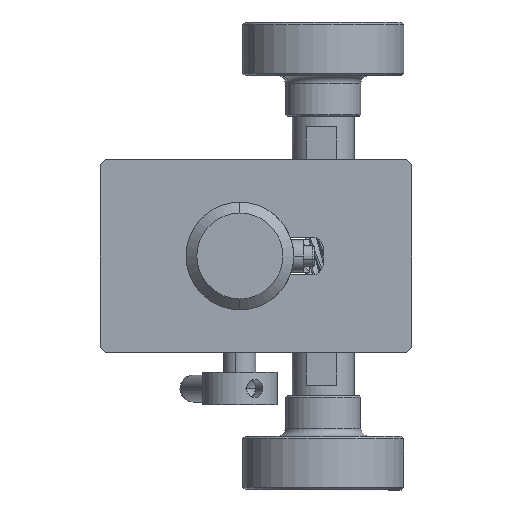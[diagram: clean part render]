
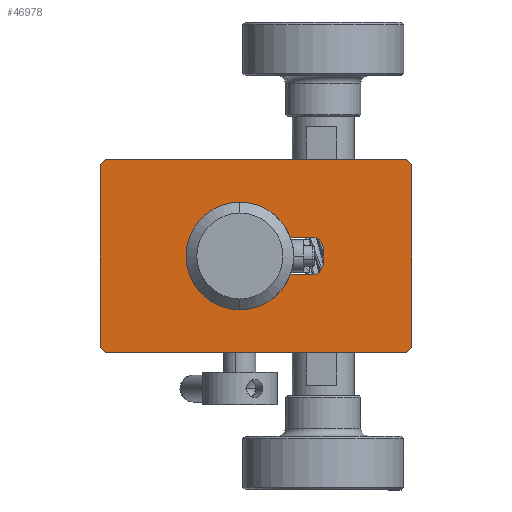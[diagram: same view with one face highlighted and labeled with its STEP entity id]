
A CAD part, front view. The second image highlights one B-rep face of the part: STEP entity #46978.
In plain terms, the highlighted planar face has unit normal (0, -1, 0).
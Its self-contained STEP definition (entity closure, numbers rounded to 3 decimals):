
#1125 = CARTESIAN_POINT ( 'NONE',  ( 37.874, -97.859, 91.708 ) ) ;
#1460 = CARTESIAN_POINT ( 'NONE',  ( 31.742, -97.859, 93.708 ) ) ;
#2434 = EDGE_CURVE ( 'NONE', #26344, #111513, #85136, .T. ) ;
#2582 = EDGE_CURVE ( 'NONE', #44937, #93007, #80805, .T. ) ;
#3878 = AXIS2_PLACEMENT_3D ( 'NONE', #51328, #110914, #9630 ) ;
#4989 = CARTESIAN_POINT ( 'NONE',  ( 53.374, -97.859, 72.208 ) ) ;
#5059 = ORIENTED_EDGE ( 'NONE', *, *, #27984, .T. ) ;
#5678 = VECTOR ( 'NONE', #26078, 1000. ) ;
#7068 = DIRECTION ( 'NONE',  ( -1., 0., 0. ) ) ;
#8962 = VERTEX_POINT ( 'NONE', #64062 ) ;
#9630 = DIRECTION ( 'NONE',  ( -1., 0., 0. ) ) ;
#10472 = DIRECTION ( 'NONE',  ( -1., 0., 0. ) ) ;
#11372 = VECTOR ( 'NONE', #53720, 1000. ) ;
#12379 = LINE ( 'NONE', #21645, #77221 ) ;
#12401 = CIRCLE ( 'NONE', #3878, 2. ) ;
#14998 = DIRECTION ( 'NONE',  ( -0.707, 0., 0.707 ) ) ;
#16202 = ORIENTED_EDGE ( 'NONE', *, *, #2582, .T. ) ;
#17969 = AXIS2_PLACEMENT_3D ( 'NONE', #107293, #27169, #76825 ) ;
#19047 = CARTESIAN_POINT ( 'NONE',  ( 54.374, -97.859, 72.208 ) ) ;
#19689 = DIRECTION ( 'NONE',  ( 0., 1., 0. ) ) ;
#21645 = CARTESIAN_POINT ( 'NONE',  ( 37.874, -97.859, 93.708 ) ) ;
#22366 = VECTOR ( 'NONE', #29344, 1000. ) ;
#23590 = DIRECTION ( 'NONE',  ( -1., 0., 0. ) ) ;
#24926 = ORIENTED_EDGE ( 'NONE', *, *, #2434, .F. ) ;
#24931 = CARTESIAN_POINT ( 'NONE',  ( -3.626, -97.859, 107.208 ) ) ;
#25679 = VERTEX_POINT ( 'NONE', #103116 ) ;
#26078 = DIRECTION ( 'NONE',  ( -0.707, 0., -0.707 ) ) ;
#26344 = VERTEX_POINT ( 'NONE', #45460 ) ;
#27169 = DIRECTION ( 'NONE',  ( 0., 1., 0. ) ) ;
#27279 = EDGE_LOOP ( 'NONE', ( #95663, #51603, #81378, #5059, #85949, #16202, #83579 ) ) ;
#27984 = EDGE_CURVE ( 'NONE', #41418, #112028, #12401, .T. ) ;
#28738 = VECTOR ( 'NONE', #120818, 1000. ) ;
#29344 = DIRECTION ( 'NONE',  ( 0., 0., -1. ) ) ;
#29516 = DIRECTION ( 'NONE',  ( 0., 1., 0. ) ) ;
#30618 = CIRCLE ( 'NONE', #17969, 10. ) ;
#30907 = CARTESIAN_POINT ( 'NONE',  ( -2.626, -97.859, 72.208 ) ) ;
#31893 = LINE ( 'NONE', #1460, #11372 ) ;
#32943 = ORIENTED_EDGE ( 'NONE', *, *, #119405, .T. ) ;
#35980 = ORIENTED_EDGE ( 'NONE', *, *, #62672, .F. ) ;
#37314 = LINE ( 'NONE', #86973, #5678 ) ;
#38056 = CARTESIAN_POINT ( 'NONE',  ( 12.374, -97.859, 90.208 ) ) ;
#38318 = EDGE_CURVE ( 'NONE', #26344, #47955, #44058, .T. ) ;
#39405 = LINE ( 'NONE', #68543, #28738 ) ;
#41418 = VERTEX_POINT ( 'NONE', #79804 ) ;
#43500 = ORIENTED_EDGE ( 'NONE', *, *, #76844, .F. ) ;
#44058 = LINE ( 'NONE', #4989, #67847 ) ;
#44937 = VERTEX_POINT ( 'NONE', #82714 ) ;
#45460 = CARTESIAN_POINT ( 'NONE',  ( 53.374, -97.859, 72.208 ) ) ;
#46978 = ADVANCED_FACE ( 'NONE', ( #55542, #116436 ), #98517, .F. ) ;
#47955 = VERTEX_POINT ( 'NONE', #90521 ) ;
#50567 = EDGE_CURVE ( 'NONE', #52501, #71266, #37314, .T. ) ;
#51328 = CARTESIAN_POINT ( 'NONE',  ( 35.874, -97.859, 91.708 ) ) ;
#51582 = ORIENTED_EDGE ( 'NONE', *, *, #50567, .T. ) ;
#51603 = ORIENTED_EDGE ( 'NONE', *, *, #108704, .T. ) ;
#52501 = VERTEX_POINT ( 'NONE', #69395 ) ;
#53720 = DIRECTION ( 'NONE',  ( 1., 0., 0. ) ) ;
#54451 = EDGE_CURVE ( 'NONE', #126458, #116730, #100904, .T. ) ;
#55103 = ORIENTED_EDGE ( 'NONE', *, *, #38318, .T. ) ;
#55542 = FACE_BOUND ( 'NONE', #27279, .T. ) ;
#58365 = VERTEX_POINT ( 'NONE', #82910 ) ;
#58722 = ORIENTED_EDGE ( 'NONE', *, *, #69258, .F. ) ;
#60437 = CARTESIAN_POINT ( 'NONE',  ( -3.626, -97.859, 72.208 ) ) ;
#62672 = EDGE_CURVE ( 'NONE', #52501, #58365, #69476, .T. ) ;
#62678 = CARTESIAN_POINT ( 'NONE',  ( 31.742, -97.859, 93.708 ) ) ;
#64062 = CARTESIAN_POINT ( 'NONE',  ( -3.626, -97.859, 73.208 ) ) ;
#67310 = EDGE_CURVE ( 'NONE', #93007, #126458, #129025, .T. ) ;
#67847 = VECTOR ( 'NONE', #115545, 1000. ) ;
#68543 = CARTESIAN_POINT ( 'NONE',  ( -3.626, -97.859, 73.208 ) ) ;
#69258 = EDGE_CURVE ( 'NONE', #8962, #71266, #70372, .T. ) ;
#69395 = CARTESIAN_POINT ( 'NONE',  ( -2.626, -97.859, 108.208 ) ) ;
#69476 = LINE ( 'NONE', #109874, #94779 ) ;
#70121 = DIRECTION ( 'NONE',  ( 1., 0., 0. ) ) ;
#70372 = LINE ( 'NONE', #60437, #125762 ) ;
#71266 = VERTEX_POINT ( 'NONE', #24931 ) ;
#74562 = DIRECTION ( 'NONE',  ( -1., 0., 0. ) ) ;
#75869 = CARTESIAN_POINT ( 'NONE',  ( 54.374, -97.859, 72.208 ) ) ;
#76825 = DIRECTION ( 'NONE',  ( -1., 0., 0. ) ) ;
#76844 = EDGE_CURVE ( 'NONE', #25679, #47955, #117438, .T. ) ;
#77221 = VECTOR ( 'NONE', #113654, 1000. ) ;
#79013 = DIRECTION ( 'NONE',  ( 0., 0., 1. ) ) ;
#79804 = CARTESIAN_POINT ( 'NONE',  ( 35.874, -97.859, 93.708 ) ) ;
#80570 = CARTESIAN_POINT ( 'NONE',  ( 31.742, -97.859, 86.708 ) ) ;
#80805 = CIRCLE ( 'NONE', #104081, 2. ) ;
#81378 = ORIENTED_EDGE ( 'NONE', *, *, #125005, .T. ) ;
#82714 = CARTESIAN_POINT ( 'NONE',  ( 37.874, -97.859, 88.708 ) ) ;
#82910 = CARTESIAN_POINT ( 'NONE',  ( 53.374, -97.859, 108.208 ) ) ;
#83161 = ORIENTED_EDGE ( 'NONE', *, *, #118545, .T. ) ;
#83579 = ORIENTED_EDGE ( 'NONE', *, *, #67310, .T. ) ;
#85136 = LINE ( 'NONE', #75869, #101998 ) ;
#85161 = CARTESIAN_POINT ( 'NONE',  ( 54.374, -97.859, 107.208 ) ) ;
#85949 = ORIENTED_EDGE ( 'NONE', *, *, #111364, .T. ) ;
#86973 = CARTESIAN_POINT ( 'NONE',  ( -2.626, -97.859, 108.208 ) ) ;
#90521 = CARTESIAN_POINT ( 'NONE',  ( 54.374, -97.859, 73.208 ) ) ;
#93007 = VERTEX_POINT ( 'NONE', #125152 ) ;
#94779 = VECTOR ( 'NONE', #70121, 1000. ) ;
#95082 = CARTESIAN_POINT ( 'NONE',  ( 35.874, -97.859, 88.708 ) ) ;
#95663 = ORIENTED_EDGE ( 'NONE', *, *, #54451, .T. ) ;
#97060 = LINE ( 'NONE', #85161, #104926 ) ;
#98517 = PLANE ( 'NONE',  #115486 ) ;
#100904 = CIRCLE ( 'NONE', #117743, 10. ) ;
#101998 = VECTOR ( 'NONE', #23590, 1000. ) ;
#103116 = CARTESIAN_POINT ( 'NONE',  ( 54.374, -97.859, 107.208 ) ) ;
#104081 = AXIS2_PLACEMENT_3D ( 'NONE', #95082, #106968, #74562 ) ;
#104926 = VECTOR ( 'NONE', #14998, 1000. ) ;
#106968 = DIRECTION ( 'NONE',  ( 0., 1., 0. ) ) ;
#107293 = CARTESIAN_POINT ( 'NONE',  ( 22.374, -97.859, 90.208 ) ) ;
#108704 = EDGE_CURVE ( 'NONE', #116730, #111554, #30618, .T. ) ;
#109874 = CARTESIAN_POINT ( 'NONE',  ( 54.374, -97.859, 108.208 ) ) ;
#110914 = DIRECTION ( 'NONE',  ( 0., 1., 0. ) ) ;
#111364 = EDGE_CURVE ( 'NONE', #112028, #44937, #12379, .T. ) ;
#111513 = VERTEX_POINT ( 'NONE', #30907 ) ;
#111554 = VERTEX_POINT ( 'NONE', #62678 ) ;
#112028 = VERTEX_POINT ( 'NONE', #1125 ) ;
#113654 = DIRECTION ( 'NONE',  ( 0., 0., -1. ) ) ;
#115486 = AXIS2_PLACEMENT_3D ( 'NONE', #19047, #19689, #127671 ) ;
#115545 = DIRECTION ( 'NONE',  ( 0.707, 0., 0.707 ) ) ;
#116436 = FACE_OUTER_BOUND ( 'NONE', #124223, .T. ) ;
#116730 = VERTEX_POINT ( 'NONE', #38056 ) ;
#117438 = LINE ( 'NONE', #129978, #22366 ) ;
#117743 = AXIS2_PLACEMENT_3D ( 'NONE', #119556, #29516, #7068 ) ;
#118545 = EDGE_CURVE ( 'NONE', #25679, #58365, #97060, .T. ) ;
#119405 = EDGE_CURVE ( 'NONE', #8962, #111513, #39405, .T. ) ;
#119556 = CARTESIAN_POINT ( 'NONE',  ( 22.374, -97.859, 90.208 ) ) ;
#119717 = CARTESIAN_POINT ( 'NONE',  ( 31.742, -97.859, 86.708 ) ) ;
#120818 = DIRECTION ( 'NONE',  ( 0.707, 0., -0.707 ) ) ;
#121389 = VECTOR ( 'NONE', #10472, 1000. ) ;
#124223 = EDGE_LOOP ( 'NONE', ( #35980, #51582, #58722, #32943, #24926, #55103, #43500, #83161 ) ) ;
#125005 = EDGE_CURVE ( 'NONE', #111554, #41418, #31893, .T. ) ;
#125152 = CARTESIAN_POINT ( 'NONE',  ( 35.874, -97.859, 86.708 ) ) ;
#125762 = VECTOR ( 'NONE', #79013, 1000. ) ;
#126458 = VERTEX_POINT ( 'NONE', #80570 ) ;
#127671 = DIRECTION ( 'NONE',  ( -1., 0., 0. ) ) ;
#129025 = LINE ( 'NONE', #119717, #121389 ) ;
#129978 = CARTESIAN_POINT ( 'NONE',  ( 54.374, -97.859, 72.208 ) ) ;
